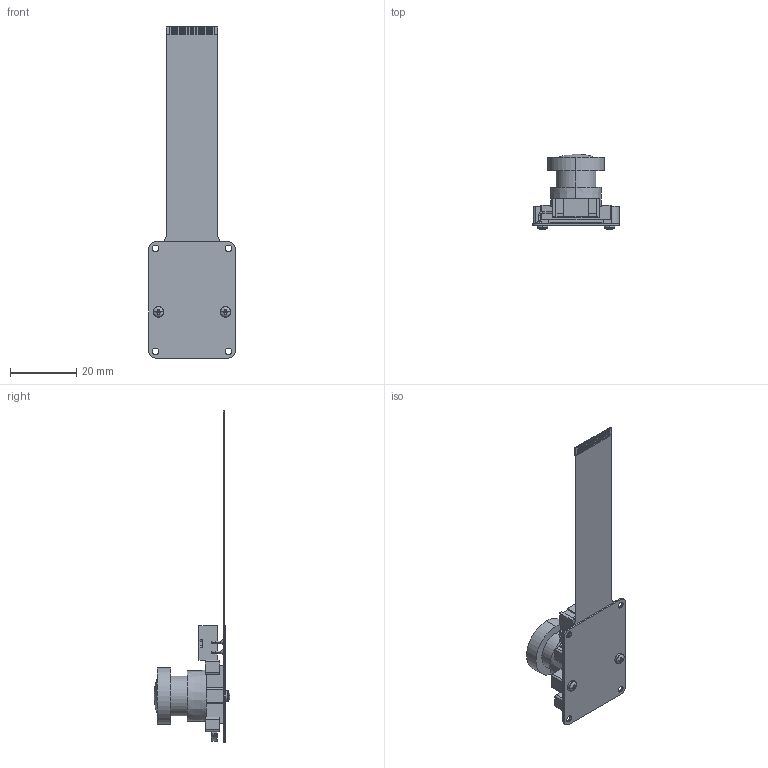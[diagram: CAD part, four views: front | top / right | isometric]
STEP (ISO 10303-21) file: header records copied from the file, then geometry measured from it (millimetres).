
FILE_DESCRIPTION (( 'STEP AP214' ), '1' );
FILE_NAME ('OS08A10_V11.STEP', '2020-04-07T08:45:27', ( '' ), ( '' ), 'SwSTEP 2.0', 'SolidWorks 2018', '' );
FILE_SCHEMA (( 'AUTOMOTIVE_DESIGN' ));
Length unit declared in the file: millimetre
Products named in the file (3): OS08A10_V11; pan head cross recess screw_iso_ISO 7045 - M1.6 x 3 - Z - 3N
Assembly tree (3 placements, depth 2):
  OS08A10_V11
    OS08A10_V11
    pan head cross recess screw_iso_ISO 7045 - M1.6 x 3 - Z - 3N  x2
Bounding box: 26 x 22.86 x 100 mm (x, y, z)
Volume: 6246.2 mm3; surface area: 8950.8 mm2
Topology: 40 solids, 40 shells, 477 faces, 1113 edges, 722 vertices
Faces by surface type: plane 342, cylinder 86, cone 32, torus 12, sphere 5
Entity records: 14557 total; most frequent: CARTESIAN_POINT 2151, DIRECTION 2104, ORIENTED_EDGE 2012, EDGE_CURVE 1006, LINE 758, VECTOR 758, AXIS2_PLACEMENT_3D 673, VERTEX_POINT 660
